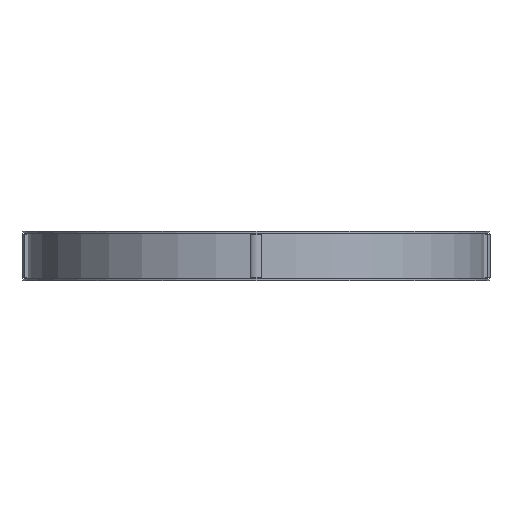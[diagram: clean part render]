
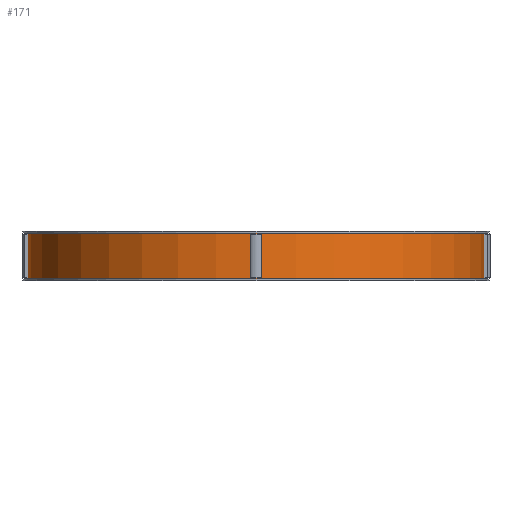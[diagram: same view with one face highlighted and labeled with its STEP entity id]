
A CAD part, front view. The second image highlights one B-rep face of the part: STEP entity #171.
In plain terms, the highlighted cylindrical face has radius 115.33 mm (diameter 230.66 mm), a full revolution.
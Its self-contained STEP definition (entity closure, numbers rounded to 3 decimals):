
#171=ADVANCED_FACE('',(#359,#360,#361,#362,#363,#364),#219,.T.);
#219=CYLINDRICAL_SURFACE('',#882,115.33);
#231=LINE('',#1207,#295);
#232=LINE('',#1212,#296);
#233=LINE('',#1215,#297);
#234=LINE('',#1220,#298);
#235=LINE('',#1223,#299);
#236=LINE('',#1228,#300);
#237=LINE('',#1234,#301);
#238=LINE('',#1238,#302);
#295=VECTOR('',#966,1.);
#296=VECTOR('',#969,1.);
#297=VECTOR('',#972,1.);
#298=VECTOR('',#975,1.);
#299=VECTOR('',#978,1.);
#300=VECTOR('',#981,1.);
#301=VECTOR('',#986,1.);
#302=VECTOR('',#989,1.);
#359=FACE_BOUND('',#383,.T.);
#360=FACE_BOUND('',#384,.T.);
#361=FACE_BOUND('',#385,.T.);
#362=FACE_BOUND('',#386,.T.);
#363=FACE_BOUND('',#387,.T.);
#364=FACE_BOUND('',#388,.T.);
#383=EDGE_LOOP('',(#447));
#384=EDGE_LOOP('',(#448));
#385=EDGE_LOOP('',(#449,#450,#451,#452));
#386=EDGE_LOOP('',(#453,#454,#455,#456));
#387=EDGE_LOOP('',(#457,#458,#459,#460));
#388=EDGE_LOOP('',(#461,#462,#463,#464));
#447=ORIENTED_EDGE('',*,*,#727,.F.);
#448=ORIENTED_EDGE('',*,*,#728,.T.);
#449=ORIENTED_EDGE('',*,*,#729,.F.);
#450=ORIENTED_EDGE('',*,*,#730,.T.);
#451=ORIENTED_EDGE('',*,*,#731,.F.);
#452=ORIENTED_EDGE('',*,*,#732,.F.);
#453=ORIENTED_EDGE('',*,*,#733,.F.);
#454=ORIENTED_EDGE('',*,*,#734,.T.);
#455=ORIENTED_EDGE('',*,*,#735,.F.);
#456=ORIENTED_EDGE('',*,*,#736,.F.);
#457=ORIENTED_EDGE('',*,*,#737,.F.);
#458=ORIENTED_EDGE('',*,*,#738,.T.);
#459=ORIENTED_EDGE('',*,*,#739,.F.);
#460=ORIENTED_EDGE('',*,*,#740,.F.);
#461=ORIENTED_EDGE('',*,*,#741,.F.);
#462=ORIENTED_EDGE('',*,*,#742,.T.);
#463=ORIENTED_EDGE('',*,*,#743,.T.);
#464=ORIENTED_EDGE('',*,*,#744,.T.);
#655=VERTEX_POINT('',#1204);
#656=VERTEX_POINT('',#1206);
#657=VERTEX_POINT('',#1208);
#658=VERTEX_POINT('',#1209);
#659=VERTEX_POINT('',#1211);
#660=VERTEX_POINT('',#1213);
#661=VERTEX_POINT('',#1216);
#662=VERTEX_POINT('',#1217);
#663=VERTEX_POINT('',#1219);
#664=VERTEX_POINT('',#1221);
#665=VERTEX_POINT('',#1224);
#666=VERTEX_POINT('',#1225);
#667=VERTEX_POINT('',#1227);
#668=VERTEX_POINT('',#1229);
#669=VERTEX_POINT('',#1232);
#670=VERTEX_POINT('',#1233);
#671=VERTEX_POINT('',#1235);
#672=VERTEX_POINT('',#1237);
#727=EDGE_CURVE('',#655,#655,#831,.T.);
#728=EDGE_CURVE('',#656,#656,#832,.T.);
#729=EDGE_CURVE('',#657,#658,#231,.T.);
#730=EDGE_CURVE('',#657,#659,#833,.T.);
#731=EDGE_CURVE('',#660,#659,#232,.T.);
#732=EDGE_CURVE('',#658,#660,#834,.T.);
#733=EDGE_CURVE('',#661,#662,#233,.T.);
#734=EDGE_CURVE('',#661,#663,#835,.T.);
#735=EDGE_CURVE('',#664,#663,#234,.T.);
#736=EDGE_CURVE('',#662,#664,#836,.T.);
#737=EDGE_CURVE('',#665,#666,#235,.T.);
#738=EDGE_CURVE('',#665,#667,#837,.T.);
#739=EDGE_CURVE('',#668,#667,#236,.T.);
#740=EDGE_CURVE('',#666,#668,#838,.T.);
#741=EDGE_CURVE('',#669,#670,#839,.T.);
#742=EDGE_CURVE('',#669,#671,#237,.T.);
#743=EDGE_CURVE('',#671,#672,#840,.T.);
#744=EDGE_CURVE('',#672,#670,#238,.T.);
#831=CIRCLE('',#872,115.33);
#832=CIRCLE('',#873,115.33);
#833=CIRCLE('',#874,115.33);
#834=CIRCLE('',#875,115.33);
#835=CIRCLE('',#876,115.33);
#836=CIRCLE('',#877,115.33);
#837=CIRCLE('',#878,115.33);
#838=CIRCLE('',#879,115.33);
#839=CIRCLE('',#880,115.33);
#840=CIRCLE('',#881,115.33);
#872=AXIS2_PLACEMENT_3D('',#1203,#962,#963);
#873=AXIS2_PLACEMENT_3D('',#1205,#964,#965);
#874=AXIS2_PLACEMENT_3D('',#1210,#967,#968);
#875=AXIS2_PLACEMENT_3D('',#1214,#970,#971);
#876=AXIS2_PLACEMENT_3D('',#1218,#973,#974);
#877=AXIS2_PLACEMENT_3D('',#1222,#976,#977);
#878=AXIS2_PLACEMENT_3D('',#1226,#979,#980);
#879=AXIS2_PLACEMENT_3D('',#1230,#982,#983);
#880=AXIS2_PLACEMENT_3D('',#1231,#984,#985);
#881=AXIS2_PLACEMENT_3D('',#1236,#987,#988);
#882=AXIS2_PLACEMENT_3D('',#1239,#990,#991);
#962=DIRECTION('',(0.,0.,1.));
#963=DIRECTION('',(1.,0.,0.));
#964=DIRECTION('',(0.,0.,1.));
#965=DIRECTION('',(1.,0.,0.));
#966=DIRECTION('',(0.,0.,-1.));
#967=DIRECTION('',(0.,0.,1.));
#968=DIRECTION('',(1.,0.,0.));
#969=DIRECTION('',(0.,0.,1.));
#970=DIRECTION('',(0.,0.,1.));
#971=DIRECTION('',(1.,0.,0.));
#972=DIRECTION('',(0.,0.,-1.));
#973=DIRECTION('',(0.,0.,1.));
#974=DIRECTION('',(1.,0.,0.));
#975=DIRECTION('',(0.,0.,1.));
#976=DIRECTION('',(0.,0.,1.));
#977=DIRECTION('',(1.,0.,0.));
#978=DIRECTION('',(0.,0.,-1.));
#979=DIRECTION('',(0.,0.,1.));
#980=DIRECTION('',(1.,0.,0.));
#981=DIRECTION('',(0.,0.,1.));
#982=DIRECTION('',(0.,0.,1.));
#983=DIRECTION('',(1.,0.,0.));
#984=DIRECTION('',(0.,0.,-1.));
#985=DIRECTION('',(-1.,0.,0.));
#986=DIRECTION('',(0.,0.,-1.));
#987=DIRECTION('',(0.,0.,-1.));
#988=DIRECTION('',(-1.,0.,0.));
#989=DIRECTION('',(0.,0.,1.));
#990=DIRECTION('',(0.,0.,-1.));
#991=DIRECTION('',(-1.,0.,0.));
#1203=CARTESIAN_POINT('',(0.,0.,24.));
#1204=CARTESIAN_POINT('',(115.33,0.,24.));
#1205=CARTESIAN_POINT('',(0.,0.,1.));
#1206=CARTESIAN_POINT('',(115.33,0.,1.));
#1207=CARTESIAN_POINT('',(115.291,-3.,25.));
#1208=CARTESIAN_POINT('',(115.291,-3.,23.5));
#1209=CARTESIAN_POINT('',(115.291,-3.,1.5));
#1210=CARTESIAN_POINT('',(0.,0.,23.5));
#1211=CARTESIAN_POINT('',(115.291,3.,23.5));
#1212=CARTESIAN_POINT('',(115.291,3.,25.));
#1213=CARTESIAN_POINT('',(115.291,3.,1.5));
#1214=CARTESIAN_POINT('',(0.,0.,1.5));
#1215=CARTESIAN_POINT('',(3.,115.291,25.));
#1216=CARTESIAN_POINT('',(3.,115.291,23.5));
#1217=CARTESIAN_POINT('',(3.,115.291,1.5));
#1218=CARTESIAN_POINT('',(0.,0.,23.5));
#1219=CARTESIAN_POINT('',(-3.,115.291,23.5));
#1220=CARTESIAN_POINT('',(-3.,115.291,25.));
#1221=CARTESIAN_POINT('',(-3.,115.291,1.5));
#1222=CARTESIAN_POINT('',(0.,0.,1.5));
#1223=CARTESIAN_POINT('',(-115.291,3.,25.));
#1224=CARTESIAN_POINT('',(-115.291,3.,23.5));
#1225=CARTESIAN_POINT('',(-115.291,3.,1.5));
#1226=CARTESIAN_POINT('',(0.,0.,23.5));
#1227=CARTESIAN_POINT('',(-115.291,-3.,23.5));
#1228=CARTESIAN_POINT('',(-115.291,-3.,25.));
#1229=CARTESIAN_POINT('',(-115.291,-3.,1.5));
#1230=CARTESIAN_POINT('',(0.,0.,1.5));
#1231=CARTESIAN_POINT('',(0.,0.,23.5));
#1232=CARTESIAN_POINT('',(3.,-115.291,23.5));
#1233=CARTESIAN_POINT('',(-3.,-115.291,23.5));
#1234=CARTESIAN_POINT('',(3.,-115.291,25.));
#1235=CARTESIAN_POINT('',(3.,-115.291,1.5));
#1236=CARTESIAN_POINT('',(0.,0.,1.5));
#1237=CARTESIAN_POINT('',(-3.,-115.291,1.5));
#1238=CARTESIAN_POINT('',(-3.,-115.291,25.));
#1239=CARTESIAN_POINT('',(0.,0.,25.));
